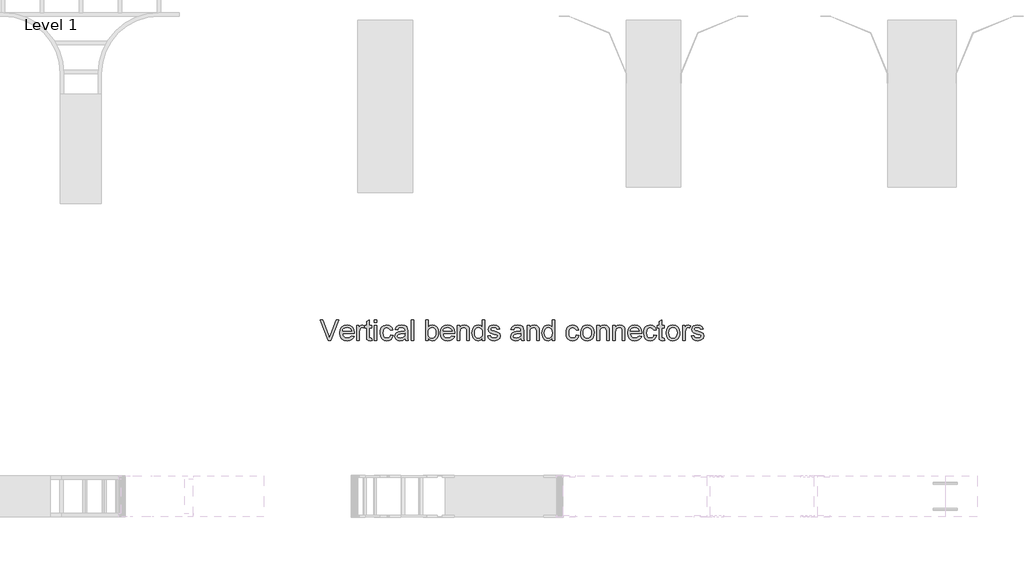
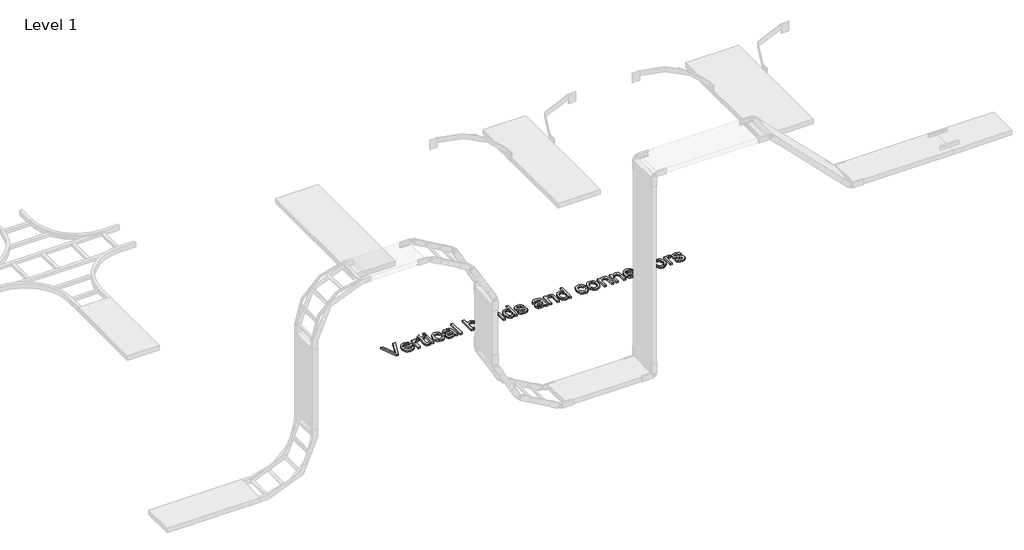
# One storey, part 58 of 106: 1 proxy.
"""IFC4 building model written with IfcOpenShell, lengths in millimetres."""

from ifc_helpers import new_model, si_unit, origin, origin_with_axes, place, context, project, spatial, polyline, outline, extrude, element, save

model = new_model("IFC4")

# Units and contexts
model_context = context("Model", 3, world=origin())
ifc_project = project(units=[si_unit("LENGTHUNIT", "METRE", prefix="MILLI")], contexts=[model_context])

# Site, building, storey
site = spatial("IfcSite", under=ifc_project)
building = spatial("IfcBuilding", under=site)
storey = spatial("IfcBuildingStorey", under=building, Name="Level 1", Elevation=0.0)

# Proxy
placement = place(None, origin())
element("IfcBuildingElementProxy", 1, Name="150mm Arial 2", ObjectType="150mm Arial 2", at=placement, inside=storey, context=model_context, shape_type="SweptSolid", body=[
    extrude(outline(polyline([(28672.9663468, 57347.8476348), (28613.0015816, 57498.5321), (28633.1615149, 57498.5321), (28673.2974406, 57389.9701232), (28681.4276327, 57365.5059705), (28689.4474602, 57389.9701232), (28729.6937505, 57498.5321), (28749.8536838, 57498.5321), (28692.4273044, 57347.8476348), (28672.9663468, 57347.8476348)])), origin_with_axes(), (0.0, 0.0, 1.0), 15.0),
    extrude(outline(polyline([(28842.4863702, 57380.8098615), (28860.9540463, 57378.4554168), (28854.2999808, 57364.5402803), (28843.6819867, 57354.1384169), (28829.3391874, 57347.6544967), (28811.5107062, 57345.49319), (28789.4101953, 57349.2225937), (28772.4048501, 57360.4108049), (28761.5615283, 57378.3312566), (28757.9470877, 57402.2573819), (28761.5983165, 57426.988249), (28772.5520029, 57445.4835163), (28789.3274219, 57457.0166168), (28810.4438484, 57460.8609837), (28830.9026859, 57457.0258139), (28847.250442, 57445.5203045), (28857.9696037, 57427.0618254), (28861.5426575, 57402.3677465), (28861.4322929, 57397.2909749), (28776.7826459, 57397.2909749), (28780.043, 57383.1918975), (28787.6167706, 57372.8268223), (28798.5474644, 57366.4532667), (28811.8785882, 57364.3287482), (28830.3462644, 57368.2650855), (28842.4863702, 57380.8098615)]), holes=[polyline([(28776.7826459, 57416.1265331), (28842.7070994, 57416.1265331), (28840.1595166, 57426.0777411), (28835.1655185, 57433.1962577), (28824.1842409, 57439.8181336), (28810.370272, 57442.0254255), (28797.6737447, 57440.2641905), (28787.1753122, 57434.9804853), (28779.8774531, 57426.7445272), (28776.7826459, 57416.1265331)])]), origin_with_axes(), (0.0, 0.0, 1.0), 15.0),
    extrude(outline(polyline([(28991.0371198, 57363.556196), (28993.3915646, 57347.2958118), (28979.3016842, 57345.49319), (28963.5195466, 57348.620187), (28955.6468719, 57356.8239555), (28953.3660035, 57378.1978994), (28953.3660035, 57439.6709808), (28939.2393349, 57439.6709808), (28939.2393349, 57455.0484482), (28939.2393349, 57458.5065389), (28953.3660035, 57458.5065389), (28953.3660035, 57485.3987128), (28972.2015617, 57496.4719608), (28972.2015617, 57458.5065389), (28991.0371198, 57458.5065389), (28991.0371198, 57439.6709808), (28972.2015617, 57439.6709808), (28972.2015617, 57378.7497224), (28973.1948431, 57369.0376377), (28976.4138105, 57365.597941), (28982.8333514, 57364.3287482), (28991.0371198, 57363.556196)])), origin_with_axes(), (0.0, 0.0, 1.0), 15.0),
    extrude(outline(polyline([(28880.3782157, 57347.8476348), (28880.3782157, 57458.5065389), (28896.8593291, 57458.5065389), (28896.8593291, 57442.1357901), (28908.5579765, 57457.2189519), (28920.3302004, 57460.8609837), (28939.2393349, 57455.0484482), (28932.9485528, 57438.1626646), (28919.704801, 57442.0254255), (28909.0546172, 57438.3098174), (28902.2671944, 57428.0091215), (28899.2137738, 57406.0097782), (28899.2137738, 57347.8476348), (28880.3782157, 57347.8476348)])), origin_with_axes(), (0.0, 0.0, 1.0), 15.0),
    extrude(outline(polyline([(29009.872678, 57479.6965419), (29009.872678, 57498.5321), (29028.7082362, 57498.5321), (29028.7082362, 57479.6965419), (29009.872678, 57479.6965419)])), origin_with_axes(), (0.0, 0.0, 1.0), 15.0),
    extrude(outline(polyline([(29009.872678, 57347.8476348), (29009.872678, 57458.5065389), (29028.7082362, 57458.5065389), (29028.7082362, 57347.8476348), (29009.872678, 57347.8476348)])), origin_with_axes(), (0.0, 0.0, 1.0), 15.0),
    extrude(outline(polyline([(29127.5949165, 57387.8731959), (29146.4304746, 57385.5187511), (29141.1789591, 57368.7663247), (29131.3105246, 57356.1065856), (29117.7540731, 57348.1465389), (29101.4385066, 57345.49319), (29081.4027334, 57349.1950026), (29065.735559, 57360.3004403), (29055.6234026, 57378.3220596), (29052.2526838, 57402.7724167), (29053.6920221, 57419.5340401), (29058.0100371, 57434.0607803), (29065.2757065, 57445.7916175), (29075.5580082, 57454.1655314), (29087.8590624, 57459.1871206), (29101.1809892, 57460.8609837), (29117.096484, 57458.5617212), (29129.8206025, 57451.6639338), (29138.9486745, 57440.5355035), (29144.0760298, 57425.5443122), (29125.2404717, 57423.1898674), (29116.5032743, 57437.2981419), (29101.328142, 57442.0254255), (29089.1558465, 57439.6985719), (29079.4943456, 57432.7180111), (29073.1897679, 57420.7066639), (29071.088242, 57403.2874515), (29073.1437826, 57385.6337142), (29079.3104046, 57373.5809803), (29088.7971615, 57366.6418062), (29100.8131072, 57364.3287482), (29110.5665786, 57365.772685), (29118.5634135, 57370.1044955), (29124.3805475, 57377.4345442), (29127.5949165, 57387.8731959)])), origin_with_axes(), (0.0, 0.0, 1.0), 15.0),
    extrude(outline(polyline([(29233.5449311, 57361.9743034), (29215.27959, 57349.2087982), (29195.1012626, 57345.49319), (29179.3605117, 57347.7280731), (29167.7492362, 57354.4327225), (29160.5893329, 57364.6138567), (29158.2026985, 57377.2781944), (29161.807942, 57392.1774152), (29171.2809034, 57402.9931459), (29184.4694729, 57409.1735634), (29200.7666453, 57412.0062547), (29233.4345665, 57418.4809779), (29233.5449311, 57422.6748326), (29232.248147, 57431.0809362), (29228.3577949, 57436.580772), (29219.6573857, 57440.6642622), (29207.535674, 57442.0254255), (29188.4793867, 57438.4017879), (29179.3927014, 57425.5443122), (29160.5571432, 57427.8987569), (29168.7057294, 57446.2928567), (29185.1132664, 57457.0717991), (29209.9636952, 57460.8609837), (29232.790773, 57457.5132575), (29245.6850369, 57449.107154), (29251.4607842, 57436.3232546), (29252.3804892, 57419.8421412), (29252.3804892, 57396.4080581), (29253.3369824, 57363.6849547), (29257.0893788, 57347.8476348), (29238.2538206, 57347.8476348), (29233.5449311, 57361.9743034)]), holes=[polyline([(29233.5449311, 57399.6454197), (29203.1578783, 57393.8696724), (29186.9526764, 57390.8162518), (29179.6134306, 57385.8498449), (29177.0382566, 57378.6025696), (29182.648457, 57368.4122383), (29199.1111763, 57364.3287482), (29218.1674637, 57368.8353026), (29230.4547223, 57379.7430038), (29233.4345665, 57394.3111308), (29233.5449311, 57399.6454197)])]), origin_with_axes(), (0.0, 0.0, 1.0), 15.0),
    extrude(outline(polyline([(29278.2793817, 57347.8476348), (29278.2793817, 57498.5321), (29297.1149398, 57498.5321), (29297.1149398, 57347.8476348), (29278.2793817, 57347.8476348)])), origin_with_axes(), (0.0, 0.0, 1.0), 15.0),
    extrude(outline(polyline([(29403.0649544, 57347.8476348), (29384.2293963, 57347.8476348), (29384.2293963, 57498.5321), (29403.0649544, 57498.5321), (29403.0649544, 57442.6508249), (29416.253524, 57456.308444), (29432.6426669, 57460.8609837), (29451.5150132, 57456.7590995), (29466.1567166, 57445.2259989), (29475.1514314, 57427.2917516), (29478.4071871, 57404.8325558), (29475.0364683, 57379.6878215), (29464.9243119, 57360.981022), (29450.084872, 57349.365148), (29432.5323023, 57345.49319), (29415.7844744, 57350.4871881), (29403.0649544, 57365.4691823), (29403.0649544, 57347.8476348)]), holes=[polyline([(29403.0649544, 57403.949639), (29404.3525414, 57388.2410779), (29408.2153024, 57377.6092882), (29418.0837369, 57367.6488832), (29430.9136215, 57364.3287482), (29441.7845344, 57366.7751634), (29451.0735548, 57374.1144092), (29457.4471104, 57386.3005003), (29459.5716289, 57403.2874515), (29457.5344824, 57420.5227229), (29451.4230427, 57432.5708583), (29442.4237294, 57439.6617837), (29431.7229619, 57442.0254255), (29420.8520489, 57439.5790103), (29411.5630285, 57432.2397645), (29405.189473, 57420.2744026), (29403.0649544, 57403.949639)])]), origin_with_axes(), (0.0, 0.0, 1.0), 15.0),
    extrude(outline(polyline([(29577.0731382, 57380.8098615), (29595.5408143, 57378.4554168), (29588.8867487, 57364.5402803), (29578.2687546, 57354.1384169), (29563.9259554, 57347.6544967), (29546.0974742, 57345.49319), (29523.9969633, 57349.2225937), (29506.9916181, 57360.4108049), (29496.1482963, 57378.3312566), (29492.5338557, 57402.2573819), (29496.1850845, 57426.988249), (29507.1387709, 57445.4835163), (29523.9141899, 57457.0166168), (29545.0306164, 57460.8609837), (29565.4894538, 57457.0258139), (29581.83721, 57445.5203045), (29592.5563716, 57427.0618254), (29596.1294255, 57402.3677465), (29596.0190609, 57397.2909749), (29511.3694138, 57397.2909749), (29514.629768, 57383.1918975), (29522.2035386, 57372.8268223), (29533.1342324, 57366.4532667), (29546.4653562, 57364.3287482), (29564.9330323, 57368.2650855), (29577.0731382, 57380.8098615)]), holes=[polyline([(29511.3694138, 57416.1265331), (29577.2938674, 57416.1265331), (29574.7462845, 57426.0777411), (29569.7522865, 57433.1962577), (29558.7710089, 57439.8181336), (29544.95704, 57442.0254255), (29532.2605126, 57440.2641905), (29521.7620802, 57434.9804853), (29514.4642211, 57426.7445272), (29511.3694138, 57416.1265331)])]), origin_with_axes(), (0.0, 0.0, 1.0), 15.0),
    extrude(outline(polyline([(29614.9649837, 57347.8476348), (29614.9649837, 57458.5065389), (29633.8005418, 57458.5065389), (29633.8005418, 57443.0554951), (29648.2031219, 57456.4096116), (29667.8664146, 57460.8609837), (29685.653509, 57457.2741342), (29697.7936149, 57447.8563552), (29703.4406035, 57434.0055981), (29704.4338849, 57415.7954393), (29704.4338849, 57347.8476348), (29685.5983267, 57347.8476348), (29685.5983267, 57413.2570535), (29683.427823, 57429.9221079), (29675.7574834, 57438.7328817), (29662.8264312, 57442.0254255), (29651.7945699, 57440.1768185), (29642.3905864, 57434.6309974), (29635.948053, 57423.9164343), (29633.8005418, 57406.5616012), (29633.8005418, 57347.8476348), (29614.9649837, 57347.8476348)])), origin_with_axes(), (0.0, 0.0, 1.0), 15.0),
    extrude(outline(polyline([(29798.6116757, 57347.8476348), (29798.6116757, 57365.6163351), (29786.1496731, 57350.5239763), (29768.9235986, 57345.49319), (29756.7467046, 57347.3142059), (29745.5998802, 57352.7772535), (29736.163707, 57361.5006553), (29729.1187668, 57373.1027337), (29724.731774, 57387.1144392), (29723.269443, 57403.0667223), (29728.6589143, 57433.0491049), (29735.3911548, 57444.9408904), (29744.8089339, 57453.6872848), (29756.1994801, 57459.067559), (29768.8500222, 57460.8609837), (29786.2140524, 57455.7290299), (29798.6116757, 57442.3933075), (29798.6116757, 57498.5321), (29817.4472338, 57498.5321), (29817.4472338, 57347.8476348), (29798.6116757, 57347.8476348)]), holes=[polyline([(29742.1050012, 57403.1402987), (29744.2295197, 57386.1027638), (29750.6030753, 57373.9856505), (29759.8645045, 57366.7429738), (29770.652644, 57364.3287482), (29781.436185, 57366.6326092), (29790.4630895, 57373.5441921), (29796.5745291, 57385.1922558), (29798.6116757, 57401.7055589), (29796.5377409, 57419.7593678), (29790.3159367, 57432.2765527), (29781.059106, 57439.5882073), (29769.8800918, 57442.0254255), (29758.9815877, 57439.6847764), (29750.0512523, 57432.6628288), (29744.091564, 57420.6008979), (29742.1050012, 57403.1402987)])]), origin_with_axes(), (0.0, 0.0, 1.0), 15.0),
    extrude(outline(polyline([(29838.6372367, 57380.8098615), (29857.4727949, 57383.1643063), (29860.443442, 57375.1076906), (29866.1915982, 57369.1847905), (29886.1675905, 57364.3287482), (29905.3710307, 57368.7801203), (29911.6250246, 57379.227969), (29910.052329, 57384.028829), (29905.3342425, 57387.6892549), (29885.9468613, 57393.060332), (29857.5831595, 57402.275776), (29845.2039303, 57413.0363243), (29840.9916815, 57428.2298507), (29844.3761959, 57442.2645488), (29853.6100339, 57452.988309), (29865.5845929, 57458.5617212), (29881.7897948, 57460.8609837), (29904.7088431, 57457.1637696), (29919.2769701, 57447.1573794), (29925.7516932, 57430.2532017), (29906.916135, 57427.8987569), (29899.8344066, 57438.2914233), (29883.2613227, 57442.0254255), (29865.235105, 57438.4569702), (29859.8272397, 57430.1428371), (29862.0713198, 57424.6613954), (29869.0978659, 57420.5043288), (29885.3214619, 57416.4944151), (29912.9677939, 57407.628459), (29925.8068755, 57397.5852805), (29930.4605827, 57381.2145317), (29924.9975351, 57363.188314), (29909.2337916, 57350.1101091), (29885.9100731, 57345.49319), (29866.9181651, 57347.7188761), (29853.0582109, 57354.3959343), (29843.8059788, 57365.4507882), (29838.6372367, 57380.8098615)])), origin_with_axes(), (0.0, 0.0, 1.0), 15.0),
    extrude(outline(polyline([(30081.145048, 57361.9743034), (30062.8797069, 57349.2087982), (30042.7013795, 57345.49319), (30026.9606286, 57347.7280731), (30015.3493531, 57354.4327225), (30008.1894498, 57364.6138567), (30005.8028153, 57377.2781944), (30009.4080589, 57392.1774152), (30018.8810203, 57402.9931459), (30032.0695898, 57409.1735634), (30048.3667622, 57412.0062547), (30081.0346834, 57418.4809779), (30081.145048, 57422.6748326), (30079.8482639, 57431.0809362), (30075.9579118, 57436.580772), (30067.2575026, 57440.6642622), (30055.1357909, 57442.0254255), (30036.0795035, 57438.4017879), (30026.9928183, 57425.5443122), (30008.1572601, 57427.8987569), (30016.3058463, 57446.2928567), (30032.7133833, 57457.0717991), (30057.5638121, 57460.8609837), (30080.3908899, 57457.5132575), (30093.2851538, 57449.107154), (30099.0609011, 57436.3232546), (30099.9806061, 57419.8421412), (30099.9806061, 57396.4080581), (30100.9370993, 57363.6849547), (30104.6894956, 57347.8476348), (30085.8539375, 57347.8476348), (30081.145048, 57361.9743034)]), holes=[polyline([(30081.145048, 57399.6454197), (30050.7579952, 57393.8696724), (30034.5527933, 57390.8162518), (30027.2135475, 57385.8498449), (30024.6383735, 57378.6025696), (30030.2485739, 57368.4122383), (30046.7112932, 57364.3287482), (30065.7675806, 57368.8353026), (30078.0548392, 57379.7430038), (30081.0346834, 57394.3111308), (30081.145048, 57399.6454197)])]), origin_with_axes(), (0.0, 0.0, 1.0), 15.0),
    extrude(outline(polyline([(30125.8794986, 57347.8476348), (30125.8794986, 57458.5065389), (30144.7150567, 57458.5065389), (30144.7150567, 57443.0554951), (30159.1176368, 57456.4096116), (30178.7809295, 57460.8609837), (30196.5680239, 57457.2741342), (30208.7081298, 57447.8563552), (30214.3551184, 57434.0055981), (30215.3483998, 57415.7954393), (30215.3483998, 57347.8476348), (30196.5128416, 57347.8476348), (30196.5128416, 57413.2570535), (30194.3423379, 57429.9221079), (30186.6719983, 57438.7328817), (30173.7409461, 57442.0254255), (30162.7090848, 57440.1768185), (30153.3051013, 57434.6309974), (30146.8625679, 57423.9164343), (30144.7150567, 57406.5616012), (30144.7150567, 57347.8476348), (30125.8794986, 57347.8476348)])), origin_with_axes(), (0.0, 0.0, 1.0), 15.0),
    extrude(outline(polyline([(30309.5261906, 57347.8476348), (30309.5261906, 57365.6163351), (30297.064188, 57350.5239763), (30279.8381135, 57345.49319), (30267.6612195, 57347.3142059), (30256.5143951, 57352.7772535), (30247.0782219, 57361.5006553), (30240.0332817, 57373.1027337), (30235.6462889, 57387.1144392), (30234.1839579, 57403.0667223), (30239.5734292, 57433.0491049), (30246.3056697, 57444.9408904), (30255.7234488, 57453.6872848), (30267.113995, 57459.067559), (30279.7645371, 57460.8609837), (30297.1285673, 57455.7290299), (30309.5261906, 57442.3933075), (30309.5261906, 57498.5321), (30328.3617487, 57498.5321), (30328.3617487, 57347.8476348), (30309.5261906, 57347.8476348)]), holes=[polyline([(30253.0195161, 57403.1402987), (30255.1440346, 57386.1027638), (30261.5175902, 57373.9856505), (30270.7790194, 57366.7429738), (30281.5671589, 57364.3287482), (30292.3506999, 57366.6326092), (30301.3776044, 57373.5441921), (30307.489044, 57385.1922558), (30309.5261906, 57401.7055589), (30307.4522558, 57419.7593678), (30301.2304516, 57432.2765527), (30291.9736209, 57439.5882073), (30280.7946067, 57442.0254255), (30269.8961026, 57439.6847764), (30260.9657672, 57432.6628288), (30255.0060789, 57420.6008979), (30253.0195161, 57403.1402987)])]), origin_with_axes(), (0.0, 0.0, 1.0), 15.0),
    extrude(outline(polyline([(30486.1095482, 57387.8731959), (30504.9451064, 57385.5187511), (30499.6935909, 57368.7663247), (30489.8251564, 57356.1065856), (30476.2687049, 57348.1465389), (30459.9531384, 57345.49319), (30439.9173652, 57349.1950026), (30424.2501908, 57360.3004403), (30414.1380344, 57378.3220596), (30410.7673156, 57402.7724167), (30412.2066539, 57419.5340401), (30416.5246689, 57434.0607803), (30423.7903383, 57445.7916175), (30434.07264, 57454.1655314), (30446.3736942, 57459.1871206), (30459.695621, 57460.8609837), (30475.6111158, 57458.5617212), (30488.3352343, 57451.6639338), (30497.4633063, 57440.5355035), (30502.5906616, 57425.5443122), (30483.7551035, 57423.1898674), (30475.0179061, 57437.2981419), (30459.8427738, 57442.0254255), (30447.6704783, 57439.6985719), (30438.0089774, 57432.7180111), (30431.7043997, 57420.7066639), (30429.6028738, 57403.2874515), (30431.6584144, 57385.6337142), (30437.8250364, 57373.5809803), (30447.3117933, 57366.6418062), (30459.327739, 57364.3287482), (30469.0812104, 57365.772685), (30477.0780453, 57370.1044955), (30482.8951793, 57377.4345442), (30486.1095482, 57387.8731959)])), origin_with_axes(), (0.0, 0.0, 1.0), 15.0),
    extrude(outline(polyline([(30516.7173302, 57403.1770869), (30520.7916233, 57429.8577286), (30533.0145026, 57448.6105133), (30548.1160585, 57457.7983661), (30566.1974586, 57460.8609837), (30585.9849114, 57457.13158), (30601.7900416, 57445.9433688), (30612.1505183, 57428.179267), (30615.6040105, 57404.7221912), (30614.0773003, 57385.693495), (30609.4971694, 57371.2081415), (30601.9969752, 57360.3602211), (30591.710075, 57352.2438246), (30579.4917942, 57347.1808487), (30566.1974586, 57345.49319), (30546.1708825, 57349.2087982), (30530.3841464, 57360.3556226), (30520.1340343, 57378.492205), (30516.7173302, 57403.1770869)]), holes=[polyline([(30535.5528884, 57403.2138751), (30537.7325892, 57386.1671431), (30544.2716917, 57374.0224387), (30554.1125351, 57366.7521708), (30566.1974586, 57364.3287482), (30578.2271998, 57366.7659664), (30588.0496491, 57374.077621), (30594.5887516, 57386.3832738), (30596.7684524, 57403.8024862), (30594.574956, 57420.3525775), (30587.9944668, 57432.331735), (30578.158222, 57439.6020029), (30566.1974586, 57442.0254255), (30554.1125351, 57439.6112), (30544.2716917, 57432.3685232), (30537.7325892, 57420.25141), (30535.5528884, 57403.2138751)])]), origin_with_axes(), (0.0, 0.0, 1.0), 15.0),
    extrude(outline(polyline([(30636.7940135, 57347.8476348), (30636.7940135, 57458.5065389), (30655.6295716, 57458.5065389), (30655.6295716, 57443.0554951), (30670.0321517, 57456.4096116), (30689.6954444, 57460.8609837), (30707.4825388, 57457.2741342), (30719.6226447, 57447.8563552), (30725.2696333, 57434.0055981), (30726.2629147, 57415.7954393), (30726.2629147, 57347.8476348), (30707.4273565, 57347.8476348), (30707.4273565, 57413.2570535), (30705.2568528, 57429.9221079), (30697.5865132, 57438.7328817), (30684.655461, 57442.0254255), (30673.6235997, 57440.1768185), (30664.2196162, 57434.6309974), (30657.7770828, 57423.9164343), (30655.6295716, 57406.5616012), (30655.6295716, 57347.8476348), (30636.7940135, 57347.8476348)])), origin_with_axes(), (0.0, 0.0, 1.0), 15.0),
    extrude(outline(polyline([(30752.1618072, 57347.8476348), (30752.1618072, 57458.5065389), (30770.9973653, 57458.5065389), (30770.9973653, 57443.0554951), (30785.3999454, 57456.4096116), (30805.0632381, 57460.8609837), (30822.8503325, 57457.2741342), (30834.9904384, 57447.8563552), (30840.637427, 57434.0055981), (30841.6307084, 57415.7954393), (30841.6307084, 57347.8476348), (30822.7951502, 57347.8476348), (30822.7951502, 57413.2570535), (30820.6246465, 57429.9221079), (30812.9543069, 57438.7328817), (30800.0232547, 57442.0254255), (30788.9913934, 57440.1768185), (30779.5874099, 57434.6309974), (30773.1448765, 57423.9164343), (30770.9973653, 57406.5616012), (30770.9973653, 57347.8476348), (30752.1618072, 57347.8476348)])), origin_with_axes(), (0.0, 0.0, 1.0), 15.0),
    extrude(outline(polyline([(30945.005549, 57380.8098615), (30963.4732252, 57378.4554168), (30956.8191596, 57364.5402803), (30946.2011655, 57354.1384169), (30931.8583662, 57347.6544967), (30914.029885, 57345.49319), (30891.9293742, 57349.2225937), (30874.9240289, 57360.4108049), (30864.0807071, 57378.3312566), (30860.4662665, 57402.2573819), (30864.1174953, 57426.988249), (30875.0711817, 57445.4835163), (30891.8466007, 57457.0166168), (30912.9630272, 57460.8609837), (30933.4218647, 57457.0258139), (30949.7696209, 57445.5203045), (30960.4887825, 57427.0618254), (30964.0618364, 57402.3677465), (30963.9514718, 57397.2909749), (30879.3018247, 57397.2909749), (30882.5621789, 57383.1918975), (30890.1359494, 57372.8268223), (30901.0666432, 57366.4532667), (30914.397767, 57364.3287482), (30932.8654432, 57368.2650855), (30945.005549, 57380.8098615)]), holes=[polyline([(30879.3018247, 57416.1265331), (30945.2262782, 57416.1265331), (30942.6786954, 57426.0777411), (30937.6846973, 57433.1962577), (30926.7034198, 57439.8181336), (30912.8894508, 57442.0254255), (30900.1929235, 57440.2641905), (30889.6944911, 57434.9804853), (30882.396632, 57426.7445272), (30879.3018247, 57416.1265331)])]), origin_with_axes(), (0.0, 0.0, 1.0), 15.0),
    extrude(outline(polyline([(31053.5307376, 57387.8731959), (31072.3662958, 57385.5187511), (31067.1147803, 57368.7663247), (31057.2463458, 57356.1065856), (31043.6898942, 57348.1465389), (31027.3743277, 57345.49319), (31007.3385546, 57349.1950026), (30991.6713801, 57360.3004403), (30981.5592238, 57378.3220596), (30978.188505, 57402.7724167), (30979.6278433, 57419.5340401), (30983.9458582, 57434.0607803), (30991.2115276, 57445.7916175), (31001.4938294, 57454.1655314), (31013.7948836, 57459.1871206), (31027.1168103, 57460.8609837), (31043.0323052, 57458.5617212), (31055.7564237, 57451.6639338), (31064.8844957, 57440.5355035), (31070.011851, 57425.5443122), (31051.1762928, 57423.1898674), (31042.4390954, 57437.2981419), (31027.2639631, 57442.0254255), (31015.0916676, 57439.6985719), (31005.4301667, 57432.7180111), (30999.125589, 57420.7066639), (30997.0240631, 57403.2874515), (30999.0796038, 57385.6337142), (31005.2462257, 57373.5809803), (31014.7329827, 57366.6418062), (31026.7489284, 57364.3287482), (31036.5023998, 57365.772685), (31044.4992346, 57370.1044955), (31050.3163687, 57377.4345442), (31053.5307376, 57387.8731959)])), origin_with_axes(), (0.0, 0.0, 1.0), 15.0),
    extrude(outline(polyline([(31128.8729702, 57363.556196), (31131.227415, 57347.2958118), (31117.1375346, 57345.49319), (31101.355397, 57348.620187), (31093.4827223, 57356.8239555), (31091.2018539, 57378.1978994), (31091.2018539, 57439.6709808), (31077.0751853, 57439.6709808), (31077.0751853, 57458.5065389), (31091.2018539, 57458.5065389), (31091.2018539, 57485.3987128), (31110.0374121, 57496.4719608), (31110.0374121, 57458.5065389), (31128.8729702, 57458.5065389), (31128.8729702, 57439.6709808), (31110.0374121, 57439.6709808), (31110.0374121, 57378.7497224), (31111.0306934, 57369.0376377), (31114.2496609, 57365.597941), (31120.6692017, 57364.3287482), (31128.8729702, 57363.556196)])), origin_with_axes(), (0.0, 0.0, 1.0), 15.0),
    extrude(outline(polyline([(31142.9996388, 57403.1770869), (31147.0739319, 57429.8577286), (31159.2968112, 57448.6105133), (31174.3983671, 57457.7983661), (31192.4797672, 57460.8609837), (31212.26722, 57457.13158), (31228.0723502, 57445.9433688), (31238.4328269, 57428.179267), (31241.8863191, 57404.7221912), (31240.3596089, 57385.693495), (31235.779478, 57371.2081415), (31228.2792838, 57360.3602211), (31217.9923835, 57352.2438246), (31205.7741028, 57347.1808487), (31192.4797672, 57345.49319), (31172.4531911, 57349.2087982), (31156.666455, 57360.3556226), (31146.4163429, 57378.492205), (31142.9996388, 57403.1770869)]), holes=[polyline([(31161.835197, 57403.2138751), (31164.0148978, 57386.1671431), (31170.5540003, 57374.0224387), (31180.3948436, 57366.7521708), (31192.4797672, 57364.3287482), (31204.5095084, 57366.7659664), (31214.3319577, 57374.077621), (31220.8710602, 57386.3832738), (31223.050761, 57403.8024862), (31220.8572646, 57420.3525775), (31214.2767754, 57432.331735), (31204.4405305, 57439.6020029), (31192.4797672, 57442.0254255), (31180.3948436, 57439.6112), (31170.5540003, 57432.3685232), (31164.0148978, 57420.25141), (31161.835197, 57403.2138751)])]), origin_with_axes(), (0.0, 0.0, 1.0), 15.0),
    extrude(outline(polyline([(31263.0763221, 57347.8476348), (31263.0763221, 57458.5065389), (31279.5574354, 57458.5065389), (31279.5574354, 57442.1357901), (31291.2560829, 57457.2189519), (31303.0283067, 57460.8609837), (31321.9374413, 57455.0484482), (31315.6466592, 57438.1626646), (31302.4029073, 57442.0254255), (31291.7527236, 57438.3098174), (31284.9653008, 57428.0091215), (31281.9118802, 57406.0097782), (31281.9118802, 57347.8476348), (31263.0763221, 57347.8476348)])), origin_with_axes(), (0.0, 0.0, 1.0), 15.0),
    extrude(outline(polyline([(31326.6463308, 57380.8098615), (31345.481889, 57383.1643063), (31348.4525361, 57375.1076906), (31354.2006923, 57369.1847905), (31374.1766846, 57364.3287482), (31393.3801247, 57368.7801203), (31399.6341187, 57379.227969), (31398.0614231, 57384.028829), (31393.3433365, 57387.6892549), (31373.9559554, 57393.060332), (31345.5922536, 57402.275776), (31333.2130244, 57413.0363243), (31329.0007756, 57428.2298507), (31332.3852899, 57442.2645488), (31341.619128, 57452.988309), (31353.593687, 57458.5617212), (31369.7988889, 57460.8609837), (31392.7179372, 57457.1637696), (31407.2860642, 57447.1573794), (31413.7607873, 57430.2532017), (31394.9252291, 57427.8987569), (31387.8435007, 57438.2914233), (31371.2704168, 57442.0254255), (31353.2441991, 57438.4569702), (31347.8363337, 57430.1428371), (31350.0804139, 57424.6613954), (31357.10696, 57420.5043288), (31373.330556, 57416.4944151), (31400.9768879, 57407.628459), (31413.8159696, 57397.5852805), (31418.4696768, 57381.2145317), (31413.0066292, 57363.188314), (31397.2428857, 57350.1101091), (31373.9191672, 57345.49319), (31354.9272592, 57347.7188761), (31341.067305, 57354.3959343), (31331.8150729, 57365.4507882), (31326.6463308, 57380.8098615)])), origin_with_axes(), (0.0, 0.0, 1.0), 15.0),
])

save(model, "model.ifc")
